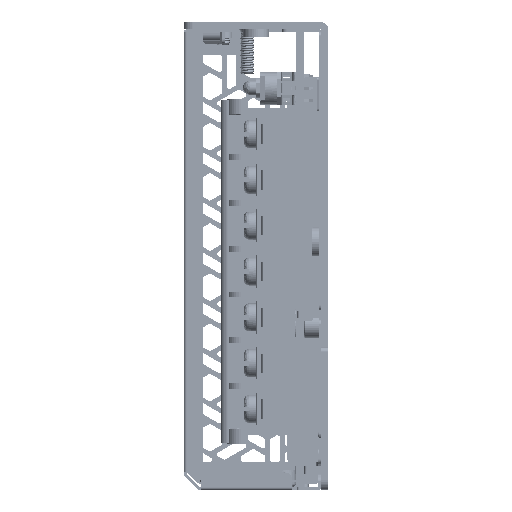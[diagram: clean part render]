
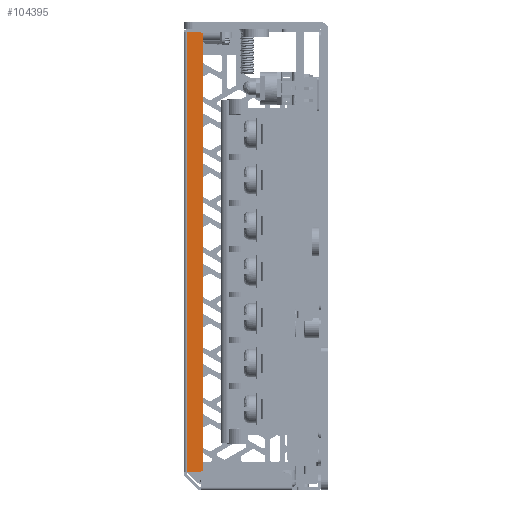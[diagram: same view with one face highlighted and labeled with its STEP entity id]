
A CAD part, left-side view. The second image highlights one B-rep face of the part: STEP entity #104395.
In plain terms, the highlighted free-form (B-spline) face has degree [3, 3] with [4, 4] control points.
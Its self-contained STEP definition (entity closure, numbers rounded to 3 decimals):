
#23022=DIRECTION('',(0.,0.,-1.));
#23023=VECTOR('',#23022,91.1);
#23024=CARTESIAN_POINT('',(-17.8,29.4,46.4));
#23025=LINE('',#23024,#23023);
#23026=DIRECTION('',(0.,1.,0.));
#23027=VECTOR('',#23026,2.9);
#23028=CARTESIAN_POINT('',(-17.8,26.5,46.4));
#23029=LINE('',#23028,#23027);
#23065=CARTESIAN_POINT('',(-17.8,26.5,-44.2));
#23066=DIRECTION('',(1.,0.,0.));
#23067=DIRECTION('',(0.,-1.,0.));
#23068=AXIS2_PLACEMENT_3D('',#23065,#23066,#23067);
#23070=DIRECTION('',(0.,1.,0.));
#23071=VECTOR('',#23070,2.9);
#23072=CARTESIAN_POINT('',(-17.8,26.5,-44.7));
#23073=LINE('',#23072,#23071);
#23074=CARTESIAN_POINT('',(-17.8,26.5,45.9));
#23075=DIRECTION('',(1.,0.,0.));
#23076=DIRECTION('',(0.,0.,1.));
#23077=AXIS2_PLACEMENT_3D('',#23074,#23075,#23076);
#44387=DIRECTION('',(0.,0.,1.));
#44388=VECTOR('',#44387,90.1);
#44389=CARTESIAN_POINT('',(-17.8,26.,-44.2));
#44390=LINE('',#44389,#44388);
#73873=CARTESIAN_POINT('',(-17.8,29.4,-44.7));
#73874=VERTEX_POINT('',#73873);
#73875=CARTESIAN_POINT('',(-17.8,26.5,-44.7));
#73876=VERTEX_POINT('',#73875);
#73878=CARTESIAN_POINT('',(-17.8,26.,-44.2));
#73880=VERTEX_POINT('',#73878);
#73883=CARTESIAN_POINT('',(-17.8,26.5,46.4));
#73884=CARTESIAN_POINT('',(-17.8,26.,45.9));
#73885=VERTEX_POINT('',#73883);
#73886=VERTEX_POINT('',#73884);
#73889=CARTESIAN_POINT('',(-17.8,29.4,46.4));
#73890=VERTEX_POINT('',#73889);
#104368=CARTESIAN_POINT('',(-17.8,25.829,-46.522));
#104369=CARTESIAN_POINT('',(-17.8,27.076,-46.522));
#104370=CARTESIAN_POINT('',(-17.8,28.324,-46.522));
#104371=CARTESIAN_POINT('',(-17.8,29.571,-46.522));
#104372=CARTESIAN_POINT('',(-17.8,25.829,-14.941));
#104373=CARTESIAN_POINT('',(-17.8,27.076,-14.941));
#104374=CARTESIAN_POINT('',(-17.8,28.324,-14.941));
#104375=CARTESIAN_POINT('',(-17.8,29.571,-14.941));
#104376=CARTESIAN_POINT('',(-17.8,25.829,16.641));
#104377=CARTESIAN_POINT('',(-17.8,27.076,16.641));
#104378=CARTESIAN_POINT('',(-17.8,28.324,16.641));
#104379=CARTESIAN_POINT('',(-17.8,29.571,16.641));
#104380=CARTESIAN_POINT('',(-17.8,25.829,48.222));
#104381=CARTESIAN_POINT('',(-17.8,27.076,48.222));
#104382=CARTESIAN_POINT('',(-17.8,28.324,48.222));
#104383=CARTESIAN_POINT('',(-17.8,29.571,48.222));
#104384=B_SPLINE_SURFACE_WITH_KNOTS('',3,3,((#104368,#104369,#104370,#104371),(
#104372,#104373,#104374,#104375),(#104376,#104377,#104378,#104379),(#104380,
#104381,#104382,#104383)),.UNSPECIFIED.,.F.,.F.,.F.,(4,4),(4,4),(-1.822,
92.922),(-4.171,-0.429),.UNSPECIFIED.);
#104385=ORIENTED_EDGE('',*,*,#104351,.T.);
#104387=ORIENTED_EDGE('',*,*,#104386,.T.);
#104388=ORIENTED_EDGE('',*,*,#104235,.F.);
#104389=ORIENTED_EDGE('',*,*,#104268,.F.);
#104390=ORIENTED_EDGE('',*,*,#104295,.T.);
#104392=ORIENTED_EDGE('',*,*,#104391,.F.);
#104393=EDGE_LOOP('',(#104385,#104387,#104388,#104389,#104390,#104392));
#104394=FACE_OUTER_BOUND('',#104393,.F.);
#104395=ADVANCED_FACE('',(#104394),#104384,.T.);
#23069=CIRCLE('',#23068,0.5);
#23078=CIRCLE('',#23077,0.5);
#104235=EDGE_CURVE('',#73890,#73874,#23025,.T.);
#104268=EDGE_CURVE('',#73885,#73890,#23029,.T.);
#104295=EDGE_CURVE('',#73885,#73886,#23078,.T.);
#104351=EDGE_CURVE('',#73880,#73876,#23069,.T.);
#104386=EDGE_CURVE('',#73876,#73874,#23073,.T.);
#104391=EDGE_CURVE('',#73880,#73886,#44390,.T.);
